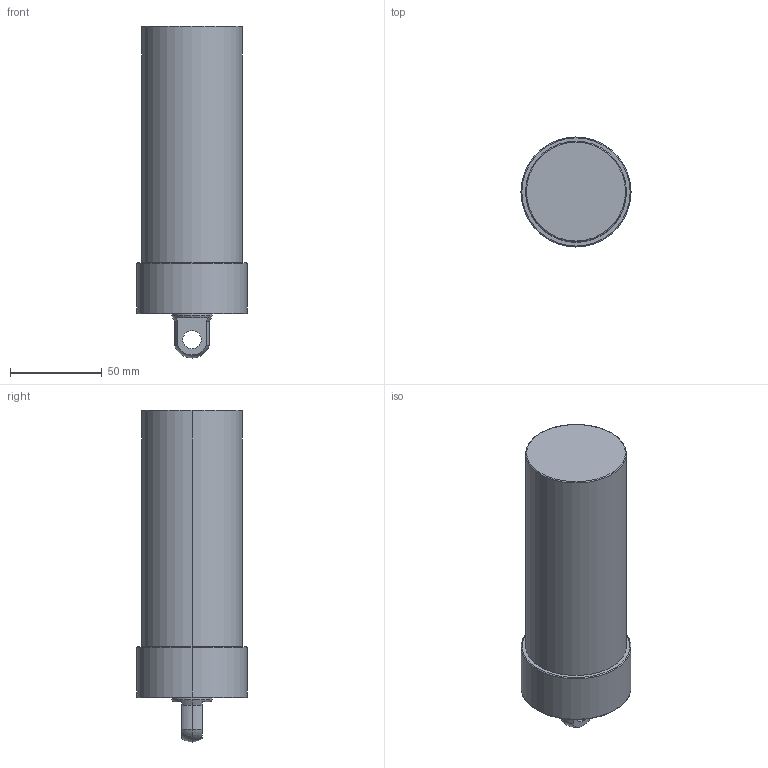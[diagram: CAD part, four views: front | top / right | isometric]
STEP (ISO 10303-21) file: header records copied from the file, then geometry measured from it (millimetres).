
FILE_DESCRIPTION (( 'STEP AP203' ), '1' );
FILE_NAME ('CLLU055-CP-0100.STEP', '2017-05-15T07:58:18', ( '' ), ( '' ), 'SwSTEP 2.0', 'SolidWorks 2015', '' );
FILE_SCHEMA (( 'CONFIG_CONTROL_DESIGN' ));
Length unit declared in the file: millimetre
Products named in the file (1): CLLU055-CP-0100
Bounding box: 60 x 60 x 181 mm (x, y, z)
Volume: 387879.4 mm3; surface area: 35543.3 mm2
Topology: 1 solids, 1 shells, 58 faces, 131 edges, 75 vertices
Faces by surface type: cylinder 23, cone 18, plane 9, torus 6, sphere 2
Entity records: 1658 total; most frequent: DIRECTION 311, CARTESIAN_POINT 269, ORIENTED_EDGE 246, AXIS2_PLACEMENT_3D 133, EDGE_CURVE 123, VERTEX_POINT 75, CIRCLE 74, EDGE_LOOP 68
